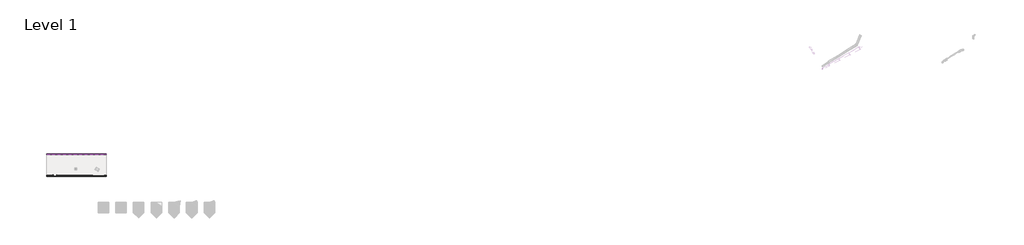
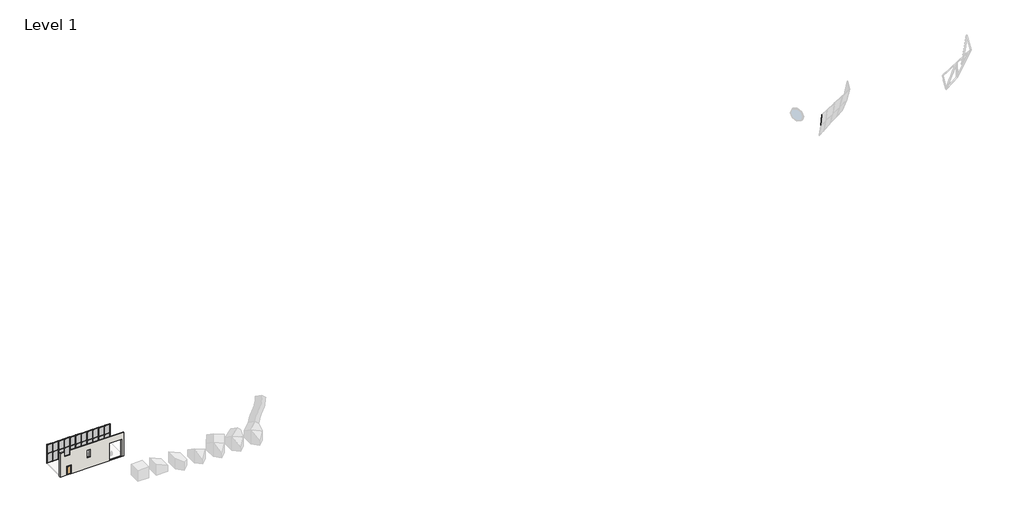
# One storey, part 1 of 4: 58 members, 22 plates, 1 door, 1 wall.
"""IFC4 building model written with IfcOpenShell, lengths in millimetres."""

from ifc_helpers import new_model, si_unit, origin, place, context, project, spatial, faceted_brep, transform, mapped, element, save
from components import m_single_glass_1_0915_x_2134mm_64ff6fe7, member_5800cf57, member_f0fea5a5, member_ee409385, member_fe566af5, member_bf97bf69, member_b8f444c1, member_f2369058, member_ab42116b, member_cc4f8265, system_panel_glazed_40b67b39, system_panel_glazed_5121d44b, system_panel_glazed_05e1786f, system_panel_glazed_7433b743

model = new_model("IFC4")

# Units and contexts
model_context = context("Model", 3, world=origin())
ifc_project = project(units=[si_unit("LENGTHUNIT", "METRE", prefix="MILLI")], contexts=[model_context])

# Site, building, storey
site = spatial("IfcSite", under=ifc_project)
building = spatial("IfcBuilding", under=site)
storey = spatial("IfcBuildingStorey", under=building, Name="Level 1", Elevation=0.0)

# Door
placement = place(None, origin())
m_single_glass_1_0915_x_2134mm_shape = m_single_glass_1_0915_x_2134mm_64ff6fe7(model_context)
element("IfcDoor", 1, ObjectType="M_Single-Glass 1 : 0915 x 2134mm", at=placement, inside=storey, context=model_context, shape_type="MappedRepresentation", body=[
    mapped(m_single_glass_1_0915_x_2134mm_shape, transform((-26242.6239276, -12846.8966791, 0.0), x_axis=(-1.0, 0.0, 0.0), y_axis=(0.0, -1.0, 0.0), z_axis=(0.0, 0.0, 1.0))),
])

# Members
member_shape = member_5800cf57(model_context)
element("IfcMember", 2, ObjectType="Circular Mullion : 2.5\" Circular", at=placement, inside=storey, context=model_context, shape_type="MappedRepresentation", body=[
    mapped(member_shape, transform((172184.898253, 14654.1915225, 5942.2259725), x_axis=(-0.8757290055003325, -0.4793902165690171, -0.057303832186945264), y_axis=(0.4828029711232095, -0.8695388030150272, -0.10394018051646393), z_axis=(0.0, -0.11868989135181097, 0.9929313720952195))),
])
member_2_shape = member_f0fea5a5(model_context)
element("IfcMember", 3, ObjectType="Rectangular Mullion : 2.5\" x 5\" rectangular", at=placement, inside=storey, context=model_context, shape_type="MappedRepresentation", body=[
    mapped(member_2_shape, transform((-14391.0330185, -7246.8966791, 100.0), x_axis=(-1.0, 0.0, 0.0), y_axis=(0.0, 1.0, 0.0), z_axis=(0.0, 0.0, -1.0))),
])
element("IfcMember", 4, ObjectType="Rectangular Mullion : 2.5\" x 5\" rectangular", at=placement, inside=storey, context=model_context, shape_type="MappedRepresentation", body=[
    mapped(member_2_shape, transform((-15781.9421094, -7246.8966791, 100.0), x_axis=(-1.0, 0.0, 0.0), y_axis=(0.0, 1.0, 0.0), z_axis=(0.0, 0.0, -1.0))),
])
element("IfcMember", 5, ObjectType="Rectangular Mullion : 2.5\" x 5\" rectangular", at=placement, inside=storey, context=model_context, shape_type="MappedRepresentation", body=[
    mapped(member_2_shape, transform((-17172.8512003, -7246.8966791, 100.0), x_axis=(-1.0, 0.0, 0.0), y_axis=(0.0, 1.0, 0.0), z_axis=(0.0, 0.0, -1.0))),
])
element("IfcMember", 6, ObjectType="Rectangular Mullion : 2.5\" x 5\" rectangular", at=placement, inside=storey, context=model_context, shape_type="MappedRepresentation", body=[
    mapped(member_2_shape, transform((-18563.7602912, -7246.8966791, 100.0), x_axis=(-1.0, 0.0, 0.0), y_axis=(0.0, 1.0, 0.0), z_axis=(0.0, 0.0, -1.0))),
])
element("IfcMember", 7, ObjectType="Rectangular Mullion : 2.5\" x 5\" rectangular", at=placement, inside=storey, context=model_context, shape_type="MappedRepresentation", body=[
    mapped(member_2_shape, transform((-19954.6693822, -7246.8966791, 100.0), x_axis=(-1.0, 0.0, 0.0), y_axis=(0.0, 1.0, 0.0), z_axis=(0.0, 0.0, -1.0))),
])
element("IfcMember", 8, ObjectType="Rectangular Mullion : 2.5\" x 5\" rectangular", at=placement, inside=storey, context=model_context, shape_type="MappedRepresentation", body=[
    mapped(member_2_shape, transform((-21345.5784731, -7246.8966791, 100.0), x_axis=(-1.0, 0.0, 0.0), y_axis=(0.0, 1.0, 0.0), z_axis=(0.0, 0.0, -1.0))),
])
element("IfcMember", 9, ObjectType="Rectangular Mullion : 2.5\" x 5\" rectangular", at=placement, inside=storey, context=model_context, shape_type="MappedRepresentation", body=[
    mapped(member_2_shape, transform((-22736.487564, -7246.8966791, 100.0), x_axis=(-1.0, 0.0, 0.0), y_axis=(0.0, 1.0, 0.0), z_axis=(0.0, 0.0, -1.0))),
])
element("IfcMember", 10, ObjectType="Rectangular Mullion : 2.5\" x 5\" rectangular", at=placement, inside=storey, context=model_context, shape_type="MappedRepresentation", body=[
    mapped(member_2_shape, transform((-24127.3966549, -7246.8966791, 100.0), x_axis=(-1.0, 0.0, 0.0), y_axis=(0.0, 1.0, 0.0), z_axis=(0.0, 0.0, -1.0))),
])
element("IfcMember", 11, ObjectType="Rectangular Mullion : 2.5\" x 5\" rectangular", at=placement, inside=storey, context=model_context, shape_type="MappedRepresentation", body=[
    mapped(member_2_shape, transform((-25518.3057458, -7246.8966791, 100.0), x_axis=(-1.0, 0.0, 0.0), y_axis=(0.0, 1.0, 0.0), z_axis=(0.0, 0.0, -1.0))),
])
element("IfcMember", 12, ObjectType="Rectangular Mullion : 2.5\" x 5\" rectangular", at=placement, inside=storey, context=model_context, shape_type="MappedRepresentation", body=[
    mapped(member_2_shape, transform((-26909.2148367, -7246.8966791, 100.0), x_axis=(-1.0, 0.0, 0.0), y_axis=(0.0, 1.0, 0.0), z_axis=(0.0, 0.0, -1.0))),
])
member_3_shape = member_ee409385(model_context)
element("IfcMember", 13, ObjectType="Rectangular Mullion : 2.5\" x 5\" rectangular", at=placement, inside=storey, context=model_context, shape_type="MappedRepresentation", body=[
    mapped(member_3_shape, transform((-28300.1239276, -7246.8966791, 100.0), x_axis=(-1.0, 0.0, 0.0), y_axis=(0.0, 1.0, 0.0), z_axis=(0.0, 0.0, -1.0))),
])
element("IfcMember", 14, ObjectType="Rectangular Mullion : 2.5\" x 5\" rectangular", at=placement, inside=storey, context=model_context, shape_type="MappedRepresentation", body=[
    mapped(member_3_shape, transform((-13000.1239276, -7246.8966791, 2538.4), x_axis=(1.0, 0.0, 0.0), y_axis=(0.0, 1.0, 0.0), z_axis=(0.0, 0.0, 1.0))),
])
member_4_shape = member_fe566af5(model_context)
element("IfcMember", 15, ObjectType="Rectangular Mullion : 2.5\" x 5\" rectangular", at=placement, inside=storey, context=model_context, shape_type="MappedRepresentation", body=[
    mapped(member_4_shape, transform((-13063.6239276, -7246.8966791, 100.0), x_axis=(0.0, 0.0, -1.0), y_axis=(0.0, 1.0, 0.0), z_axis=(1.0, 0.0, 0.0))),
])
element("IfcMember", 16, ObjectType="Rectangular Mullion : 2.5\" x 5\" rectangular", at=placement, inside=storey, context=model_context, shape_type="MappedRepresentation", body=[
    mapped(member_4_shape, transform((-26940.9648367, -7246.8966791, 100.0), x_axis=(0.0, 0.0, -1.0), y_axis=(0.0, 1.0, 0.0), z_axis=(1.0, 0.0, 0.0))),
])
member_5_shape = member_bf97bf69(model_context)
element("IfcMember", 17, ObjectType="Rectangular Mullion : 2.5\" x 5\" rectangular", at=placement, inside=storey, context=model_context, shape_type="MappedRepresentation", body=[
    mapped(member_5_shape, transform((-14422.7830185, -7246.8966791, 100.0), x_axis=(0.0, 0.0, -1.0), y_axis=(0.0, 1.0, 0.0), z_axis=(1.0, 0.0, 0.0))),
])
element("IfcMember", 18, ObjectType="Rectangular Mullion : 2.5\" x 5\" rectangular", at=placement, inside=storey, context=model_context, shape_type="MappedRepresentation", body=[
    mapped(member_5_shape, transform((-15813.6921094, -7246.8966791, 100.0), x_axis=(0.0, 0.0, -1.0), y_axis=(0.0, 1.0, 0.0), z_axis=(1.0, 0.0, 0.0))),
])
element("IfcMember", 19, ObjectType="Rectangular Mullion : 2.5\" x 5\" rectangular", at=placement, inside=storey, context=model_context, shape_type="MappedRepresentation", body=[
    mapped(member_5_shape, transform((-17204.6012003, -7246.8966791, 100.0), x_axis=(0.0, 0.0, -1.0), y_axis=(0.0, 1.0, 0.0), z_axis=(1.0, 0.0, 0.0))),
])
element("IfcMember", 20, ObjectType="Rectangular Mullion : 2.5\" x 5\" rectangular", at=placement, inside=storey, context=model_context, shape_type="MappedRepresentation", body=[
    mapped(member_5_shape, transform((-18595.5102912, -7246.8966791, 100.0), x_axis=(0.0, 0.0, -1.0), y_axis=(0.0, 1.0, 0.0), z_axis=(1.0, 0.0, 0.0))),
])
element("IfcMember", 21, ObjectType="Rectangular Mullion : 2.5\" x 5\" rectangular", at=placement, inside=storey, context=model_context, shape_type="MappedRepresentation", body=[
    mapped(member_5_shape, transform((-19986.4193822, -7246.8966791, 100.0), x_axis=(0.0, 0.0, -1.0), y_axis=(0.0, 1.0, 0.0), z_axis=(1.0, 0.0, 0.0))),
])
element("IfcMember", 22, ObjectType="Rectangular Mullion : 2.5\" x 5\" rectangular", at=placement, inside=storey, context=model_context, shape_type="MappedRepresentation", body=[
    mapped(member_5_shape, transform((-21377.3284731, -7246.8966791, 100.0), x_axis=(0.0, 0.0, -1.0), y_axis=(0.0, 1.0, 0.0), z_axis=(1.0, 0.0, 0.0))),
])
element("IfcMember", 23, ObjectType="Rectangular Mullion : 2.5\" x 5\" rectangular", at=placement, inside=storey, context=model_context, shape_type="MappedRepresentation", body=[
    mapped(member_5_shape, transform((-22768.237564, -7246.8966791, 100.0), x_axis=(0.0, 0.0, -1.0), y_axis=(0.0, 1.0, 0.0), z_axis=(1.0, 0.0, 0.0))),
])
element("IfcMember", 24, ObjectType="Rectangular Mullion : 2.5\" x 5\" rectangular", at=placement, inside=storey, context=model_context, shape_type="MappedRepresentation", body=[
    mapped(member_5_shape, transform((-24159.1466549, -7246.8966791, 100.0), x_axis=(0.0, 0.0, -1.0), y_axis=(0.0, 1.0, 0.0), z_axis=(1.0, 0.0, 0.0))),
])
element("IfcMember", 25, ObjectType="Rectangular Mullion : 2.5\" x 5\" rectangular", at=placement, inside=storey, context=model_context, shape_type="MappedRepresentation", body=[
    mapped(member_5_shape, transform((-25550.0557458, -7246.8966791, 100.0), x_axis=(0.0, 0.0, -1.0), y_axis=(0.0, 1.0, 0.0), z_axis=(1.0, 0.0, 0.0))),
])
member_6_shape = member_b8f444c1(model_context)
element("IfcMember", 26, ObjectType="Rectangular Mullion : 2.5\" x 5\" rectangular", at=placement, inside=storey, context=model_context, shape_type="MappedRepresentation", body=[
    mapped(member_6_shape, transform((-14359.2830185, -7246.8966791, 2538.4), x_axis=(0.0, 0.0, 1.0), y_axis=(0.0, 1.0, 0.0), z_axis=(-1.0, 0.0, 0.0))),
])
element("IfcMember", 27, ObjectType="Rectangular Mullion : 2.5\" x 5\" rectangular", at=placement, inside=storey, context=model_context, shape_type="MappedRepresentation", body=[
    mapped(member_6_shape, transform((-28236.6239276, -7246.8966791, 2538.4), x_axis=(0.0, 0.0, 1.0), y_axis=(0.0, 1.0, 0.0), z_axis=(-1.0, 0.0, 0.0))),
])
member_7_shape = member_f2369058(model_context)
element("IfcMember", 28, ObjectType="Rectangular Mullion : 2.5\" x 5\" rectangular", at=placement, inside=storey, context=model_context, shape_type="MappedRepresentation", body=[
    mapped(member_7_shape, transform((-15750.1921094, -7246.8966791, 2538.4), x_axis=(0.0, 0.0, 1.0), y_axis=(0.0, 1.0, 0.0), z_axis=(-1.0, 0.0, 0.0))),
])
element("IfcMember", 29, ObjectType="Rectangular Mullion : 2.5\" x 5\" rectangular", at=placement, inside=storey, context=model_context, shape_type="MappedRepresentation", body=[
    mapped(member_7_shape, transform((-17141.1012003, -7246.8966791, 2538.4), x_axis=(0.0, 0.0, 1.0), y_axis=(0.0, 1.0, 0.0), z_axis=(-1.0, 0.0, 0.0))),
])
element("IfcMember", 30, ObjectType="Rectangular Mullion : 2.5\" x 5\" rectangular", at=placement, inside=storey, context=model_context, shape_type="MappedRepresentation", body=[
    mapped(member_7_shape, transform((-18532.0102912, -7246.8966791, 2538.4), x_axis=(0.0, 0.0, 1.0), y_axis=(0.0, 1.0, 0.0), z_axis=(-1.0, 0.0, 0.0))),
])
element("IfcMember", 31, ObjectType="Rectangular Mullion : 2.5\" x 5\" rectangular", at=placement, inside=storey, context=model_context, shape_type="MappedRepresentation", body=[
    mapped(member_7_shape, transform((-19922.9193822, -7246.8966791, 2538.4), x_axis=(0.0, 0.0, 1.0), y_axis=(0.0, 1.0, 0.0), z_axis=(-1.0, 0.0, 0.0))),
])
element("IfcMember", 32, ObjectType="Rectangular Mullion : 2.5\" x 5\" rectangular", at=placement, inside=storey, context=model_context, shape_type="MappedRepresentation", body=[
    mapped(member_7_shape, transform((-21313.8284731, -7246.8966791, 2538.4), x_axis=(0.0, 0.0, 1.0), y_axis=(0.0, 1.0, 0.0), z_axis=(-1.0, 0.0, 0.0))),
])
element("IfcMember", 33, ObjectType="Rectangular Mullion : 2.5\" x 5\" rectangular", at=placement, inside=storey, context=model_context, shape_type="MappedRepresentation", body=[
    mapped(member_7_shape, transform((-22704.737564, -7246.8966791, 2538.4), x_axis=(0.0, 0.0, 1.0), y_axis=(0.0, 1.0, 0.0), z_axis=(-1.0, 0.0, 0.0))),
])
element("IfcMember", 34, ObjectType="Rectangular Mullion : 2.5\" x 5\" rectangular", at=placement, inside=storey, context=model_context, shape_type="MappedRepresentation", body=[
    mapped(member_7_shape, transform((-24095.6466549, -7246.8966791, 2538.4), x_axis=(0.0, 0.0, 1.0), y_axis=(0.0, 1.0, 0.0), z_axis=(-1.0, 0.0, 0.0))),
])
element("IfcMember", 35, ObjectType="Rectangular Mullion : 2.5\" x 5\" rectangular", at=placement, inside=storey, context=model_context, shape_type="MappedRepresentation", body=[
    mapped(member_7_shape, transform((-25486.5557458, -7246.8966791, 2538.4), x_axis=(0.0, 0.0, 1.0), y_axis=(0.0, 1.0, 0.0), z_axis=(-1.0, 0.0, 0.0))),
])
element("IfcMember", 36, ObjectType="Rectangular Mullion : 2.5\" x 5\" rectangular", at=placement, inside=storey, context=model_context, shape_type="MappedRepresentation", body=[
    mapped(member_7_shape, transform((-26877.4648367, -7246.8966791, 2538.4), x_axis=(0.0, 0.0, 1.0), y_axis=(0.0, 1.0, 0.0), z_axis=(-1.0, 0.0, 0.0))),
])
member_8_shape = member_ab42116b(model_context)
element("IfcMember", 37, ObjectType="Rectangular Mullion : 2.5\" x 5\" rectangular", at=placement, inside=storey, context=model_context, shape_type="MappedRepresentation", body=[
    mapped(member_8_shape, transform((-14391.0330185, -7246.8966791, 2538.4), x_axis=(-1.0, 0.0, 0.0), y_axis=(0.0, 1.0, 0.0), z_axis=(0.0, 0.0, -1.0))),
])
element("IfcMember", 38, ObjectType="Rectangular Mullion : 2.5\" x 5\" rectangular", at=placement, inside=storey, context=model_context, shape_type="MappedRepresentation", body=[
    mapped(member_8_shape, transform((-15781.9421094, -7246.8966791, 2538.4), x_axis=(-1.0, 0.0, 0.0), y_axis=(0.0, 1.0, 0.0), z_axis=(0.0, 0.0, -1.0))),
])
element("IfcMember", 39, ObjectType="Rectangular Mullion : 2.5\" x 5\" rectangular", at=placement, inside=storey, context=model_context, shape_type="MappedRepresentation", body=[
    mapped(member_8_shape, transform((-17172.8512003, -7246.8966791, 2538.4), x_axis=(-1.0, 0.0, 0.0), y_axis=(0.0, 1.0, 0.0), z_axis=(0.0, 0.0, -1.0))),
])
element("IfcMember", 40, ObjectType="Rectangular Mullion : 2.5\" x 5\" rectangular", at=placement, inside=storey, context=model_context, shape_type="MappedRepresentation", body=[
    mapped(member_8_shape, transform((-18563.7602912, -7246.8966791, 2538.4), x_axis=(-1.0, 0.0, 0.0), y_axis=(0.0, 1.0, 0.0), z_axis=(0.0, 0.0, -1.0))),
])
element("IfcMember", 41, ObjectType="Rectangular Mullion : 2.5\" x 5\" rectangular", at=placement, inside=storey, context=model_context, shape_type="MappedRepresentation", body=[
    mapped(member_8_shape, transform((-19954.6693822, -7246.8966791, 2538.4), x_axis=(-1.0, 0.0, 0.0), y_axis=(0.0, 1.0, 0.0), z_axis=(0.0, 0.0, -1.0))),
])
element("IfcMember", 42, ObjectType="Rectangular Mullion : 2.5\" x 5\" rectangular", at=placement, inside=storey, context=model_context, shape_type="MappedRepresentation", body=[
    mapped(member_8_shape, transform((-21345.5784731, -7246.8966791, 2538.4), x_axis=(-1.0, 0.0, 0.0), y_axis=(0.0, 1.0, 0.0), z_axis=(0.0, 0.0, -1.0))),
])
element("IfcMember", 43, ObjectType="Rectangular Mullion : 2.5\" x 5\" rectangular", at=placement, inside=storey, context=model_context, shape_type="MappedRepresentation", body=[
    mapped(member_8_shape, transform((-22736.487564, -7246.8966791, 2538.4), x_axis=(-1.0, 0.0, 0.0), y_axis=(0.0, 1.0, 0.0), z_axis=(0.0, 0.0, -1.0))),
])
element("IfcMember", 44, ObjectType="Rectangular Mullion : 2.5\" x 5\" rectangular", at=placement, inside=storey, context=model_context, shape_type="MappedRepresentation", body=[
    mapped(member_8_shape, transform((-24127.3966549, -7246.8966791, 2538.4), x_axis=(-1.0, 0.0, 0.0), y_axis=(0.0, 1.0, 0.0), z_axis=(0.0, 0.0, -1.0))),
])
element("IfcMember", 45, ObjectType="Rectangular Mullion : 2.5\" x 5\" rectangular", at=placement, inside=storey, context=model_context, shape_type="MappedRepresentation", body=[
    mapped(member_8_shape, transform((-25518.3057458, -7246.8966791, 2538.4), x_axis=(-1.0, 0.0, 0.0), y_axis=(0.0, 1.0, 0.0), z_axis=(0.0, 0.0, -1.0))),
])
element("IfcMember", 46, ObjectType="Rectangular Mullion : 2.5\" x 5\" rectangular", at=placement, inside=storey, context=model_context, shape_type="MappedRepresentation", body=[
    mapped(member_8_shape, transform((-26909.2148367, -7246.8966791, 2538.4), x_axis=(-1.0, 0.0, 0.0), y_axis=(0.0, 1.0, 0.0), z_axis=(0.0, 0.0, -1.0))),
])
element("IfcMember", 47, ObjectType="Rectangular Mullion : 2.5\" x 5\" rectangular", at=placement, inside=storey, context=model_context, shape_type="MappedRepresentation", body=[
    mapped(member_4_shape, transform((-28236.6239276, -7246.8966791, 4800.0), x_axis=(0.0, 0.0, 1.0), y_axis=(0.0, 1.0, 0.0), z_axis=(-1.0, 0.0, 0.0))),
])
element("IfcMember", 48, ObjectType="Rectangular Mullion : 2.5\" x 5\" rectangular", at=placement, inside=storey, context=model_context, shape_type="MappedRepresentation", body=[
    mapped(member_4_shape, transform((-14359.2830185, -7246.8966791, 4800.0), x_axis=(0.0, 0.0, 1.0), y_axis=(0.0, 1.0, 0.0), z_axis=(-1.0, 0.0, 0.0))),
])
element("IfcMember", 49, ObjectType="Rectangular Mullion : 2.5\" x 5\" rectangular", at=placement, inside=storey, context=model_context, shape_type="MappedRepresentation", body=[
    mapped(member_5_shape, transform((-15750.1921094, -7246.8966791, 4800.0), x_axis=(0.0, 0.0, 1.0), y_axis=(0.0, 1.0, 0.0), z_axis=(-1.0, 0.0, 0.0))),
])
element("IfcMember", 50, ObjectType="Rectangular Mullion : 2.5\" x 5\" rectangular", at=placement, inside=storey, context=model_context, shape_type="MappedRepresentation", body=[
    mapped(member_5_shape, transform((-17141.1012003, -7246.8966791, 4800.0), x_axis=(0.0, 0.0, 1.0), y_axis=(0.0, 1.0, 0.0), z_axis=(-1.0, 0.0, 0.0))),
])
element("IfcMember", 51, ObjectType="Rectangular Mullion : 2.5\" x 5\" rectangular", at=placement, inside=storey, context=model_context, shape_type="MappedRepresentation", body=[
    mapped(member_5_shape, transform((-18532.0102912, -7246.8966791, 4800.0), x_axis=(0.0, 0.0, 1.0), y_axis=(0.0, 1.0, 0.0), z_axis=(-1.0, 0.0, 0.0))),
])
element("IfcMember", 52, ObjectType="Rectangular Mullion : 2.5\" x 5\" rectangular", at=placement, inside=storey, context=model_context, shape_type="MappedRepresentation", body=[
    mapped(member_5_shape, transform((-19922.9193822, -7246.8966791, 4800.0), x_axis=(0.0, 0.0, 1.0), y_axis=(0.0, 1.0, 0.0), z_axis=(-1.0, 0.0, 0.0))),
])
element("IfcMember", 53, ObjectType="Rectangular Mullion : 2.5\" x 5\" rectangular", at=placement, inside=storey, context=model_context, shape_type="MappedRepresentation", body=[
    mapped(member_5_shape, transform((-21313.8284731, -7246.8966791, 4800.0), x_axis=(0.0, 0.0, 1.0), y_axis=(0.0, 1.0, 0.0), z_axis=(-1.0, 0.0, 0.0))),
])
element("IfcMember", 54, ObjectType="Rectangular Mullion : 2.5\" x 5\" rectangular", at=placement, inside=storey, context=model_context, shape_type="MappedRepresentation", body=[
    mapped(member_5_shape, transform((-22704.737564, -7246.8966791, 4800.0), x_axis=(0.0, 0.0, 1.0), y_axis=(0.0, 1.0, 0.0), z_axis=(-1.0, 0.0, 0.0))),
])
element("IfcMember", 55, ObjectType="Rectangular Mullion : 2.5\" x 5\" rectangular", at=placement, inside=storey, context=model_context, shape_type="MappedRepresentation", body=[
    mapped(member_5_shape, transform((-24095.6466549, -7246.8966791, 4800.0), x_axis=(0.0, 0.0, 1.0), y_axis=(0.0, 1.0, 0.0), z_axis=(-1.0, 0.0, 0.0))),
])
element("IfcMember", 56, ObjectType="Rectangular Mullion : 2.5\" x 5\" rectangular", at=placement, inside=storey, context=model_context, shape_type="MappedRepresentation", body=[
    mapped(member_5_shape, transform((-25486.5557458, -7246.8966791, 4800.0), x_axis=(0.0, 0.0, 1.0), y_axis=(0.0, 1.0, 0.0), z_axis=(-1.0, 0.0, 0.0))),
])
element("IfcMember", 57, ObjectType="Rectangular Mullion : 2.5\" x 5\" rectangular", at=placement, inside=storey, context=model_context, shape_type="MappedRepresentation", body=[
    mapped(member_5_shape, transform((-26877.4648367, -7246.8966791, 4800.0), x_axis=(0.0, 0.0, 1.0), y_axis=(0.0, 1.0, 0.0), z_axis=(-1.0, 0.0, 0.0))),
])
member_9_shape = member_cc4f8265(model_context)
element("IfcMember", 58, ObjectType="Rectangular Mullion : 2.5\" x 5\" rectangular", at=placement, inside=storey, context=model_context, shape_type="MappedRepresentation", body=[
    mapped(member_9_shape, transform((-28300.1239276, -7246.8966791, 2538.4), x_axis=(-1.0, 0.0, 0.0), y_axis=(0.0, 1.0, 0.0), z_axis=(0.0, 0.0, -1.0))),
])
element("IfcMember", 59, ObjectType="Rectangular Mullion : 2.5\" x 5\" rectangular", at=placement, inside=storey, context=model_context, shape_type="MappedRepresentation", body=[
    mapped(member_9_shape, transform((-13000.1239276, -7246.8966791, 4800.0), x_axis=(1.0, 0.0, 0.0), y_axis=(0.0, 1.0, 0.0), z_axis=(0.0, 0.0, 1.0))),
])

# Plates
system_panel_glazed_shape = system_panel_glazed_40b67b39(model_context)
element("IfcPlate", 60, ObjectType="System Panel : Glazed", at=placement, inside=storey, context=model_context, shape_type="MappedRepresentation", body=[
    mapped(system_panel_glazed_shape, transform((-13711.4534731, -7246.8966791, 163.5), x_axis=(-1.0, 0.0, 0.0), y_axis=(0.0, -1.0, 0.0), z_axis=(0.0, 0.0, 1.0))),
])
element("IfcPlate", 61, ObjectType="System Panel : Glazed", at=placement, inside=storey, context=model_context, shape_type="MappedRepresentation", body=[
    mapped(system_panel_glazed_shape, transform((-27588.7943822, -7246.8966791, 163.5), x_axis=(-1.0, 0.0, 0.0), y_axis=(0.0, -1.0, 0.0), z_axis=(0.0, 0.0, 1.0))),
])
system_panel_glazed_2_shape = system_panel_glazed_5121d44b(model_context)
element("IfcPlate", 62, ObjectType="System Panel : Glazed", at=placement, inside=storey, context=model_context, shape_type="MappedRepresentation", body=[
    mapped(system_panel_glazed_2_shape, transform((-15086.487564, -7246.8966791, 163.5), x_axis=(-1.0, 0.0, 0.0), y_axis=(0.0, -1.0, 0.0), z_axis=(0.0, 0.0, 1.0))),
])
element("IfcPlate", 63, ObjectType="System Panel : Glazed", at=placement, inside=storey, context=model_context, shape_type="MappedRepresentation", body=[
    mapped(system_panel_glazed_2_shape, transform((-16477.3966549, -7246.8966791, 163.5), x_axis=(-1.0, 0.0, 0.0), y_axis=(0.0, -1.0, 0.0), z_axis=(0.0, 0.0, 1.0))),
])
element("IfcPlate", 64, ObjectType="System Panel : Glazed", at=placement, inside=storey, context=model_context, shape_type="MappedRepresentation", body=[
    mapped(system_panel_glazed_2_shape, transform((-17868.3057458, -7246.8966791, 163.5), x_axis=(-1.0, 0.0, 0.0), y_axis=(0.0, -1.0, 0.0), z_axis=(0.0, 0.0, 1.0))),
])
element("IfcPlate", 65, ObjectType="System Panel : Glazed", at=placement, inside=storey, context=model_context, shape_type="MappedRepresentation", body=[
    mapped(system_panel_glazed_2_shape, transform((-19259.2148367, -7246.8966791, 163.5), x_axis=(-1.0, 0.0, 0.0), y_axis=(0.0, -1.0, 0.0), z_axis=(0.0, 0.0, 1.0))),
])
element("IfcPlate", 66, ObjectType="System Panel : Glazed", at=placement, inside=storey, context=model_context, shape_type="MappedRepresentation", body=[
    mapped(system_panel_glazed_2_shape, transform((-20650.1239276, -7246.8966791, 163.5), x_axis=(-1.0, 0.0, 0.0), y_axis=(0.0, -1.0, 0.0), z_axis=(0.0, 0.0, 1.0))),
])
element("IfcPlate", 67, ObjectType="System Panel : Glazed", at=placement, inside=storey, context=model_context, shape_type="MappedRepresentation", body=[
    mapped(system_panel_glazed_2_shape, transform((-22041.0330185, -7246.8966791, 163.5), x_axis=(-1.0, 0.0, 0.0), y_axis=(0.0, -1.0, 0.0), z_axis=(0.0, 0.0, 1.0))),
])
element("IfcPlate", 68, ObjectType="System Panel : Glazed", at=placement, inside=storey, context=model_context, shape_type="MappedRepresentation", body=[
    mapped(system_panel_glazed_2_shape, transform((-23431.9421094, -7246.8966791, 163.5), x_axis=(-1.0, 0.0, 0.0), y_axis=(0.0, -1.0, 0.0), z_axis=(0.0, 0.0, 1.0))),
])
element("IfcPlate", 69, ObjectType="System Panel : Glazed", at=placement, inside=storey, context=model_context, shape_type="MappedRepresentation", body=[
    mapped(system_panel_glazed_2_shape, transform((-24822.8512003, -7246.8966791, 163.5), x_axis=(-1.0, 0.0, 0.0), y_axis=(0.0, -1.0, 0.0), z_axis=(0.0, 0.0, 1.0))),
])
element("IfcPlate", 70, ObjectType="System Panel : Glazed", at=placement, inside=storey, context=model_context, shape_type="MappedRepresentation", body=[
    mapped(system_panel_glazed_2_shape, transform((-26213.7602912, -7246.8966791, 163.5), x_axis=(-1.0, 0.0, 0.0), y_axis=(0.0, -1.0, 0.0), z_axis=(0.0, 0.0, 1.0))),
])
system_panel_glazed_3_shape = system_panel_glazed_05e1786f(model_context)
element("IfcPlate", 71, ObjectType="System Panel : Glazed", at=placement, inside=storey, context=model_context, shape_type="MappedRepresentation", body=[
    mapped(system_panel_glazed_3_shape, transform((-13711.4534731, -7246.8966791, 2570.15), x_axis=(-1.0, 0.0, 0.0), y_axis=(0.0, -1.0, 0.0), z_axis=(0.0, 0.0, 1.0))),
])
element("IfcPlate", 72, ObjectType="System Panel : Glazed", at=placement, inside=storey, context=model_context, shape_type="MappedRepresentation", body=[
    mapped(system_panel_glazed_3_shape, transform((-27588.7943822, -7246.8966791, 2570.15), x_axis=(-1.0, 0.0, 0.0), y_axis=(0.0, -1.0, 0.0), z_axis=(0.0, 0.0, 1.0))),
])
system_panel_glazed_4_shape = system_panel_glazed_7433b743(model_context)
element("IfcPlate", 73, ObjectType="System Panel : Glazed", at=placement, inside=storey, context=model_context, shape_type="MappedRepresentation", body=[
    mapped(system_panel_glazed_4_shape, transform((-15086.487564, -7246.8966791, 2570.15), x_axis=(-1.0, 0.0, 0.0), y_axis=(0.0, -1.0, 0.0), z_axis=(0.0, 0.0, 1.0))),
])
element("IfcPlate", 74, ObjectType="System Panel : Glazed", at=placement, inside=storey, context=model_context, shape_type="MappedRepresentation", body=[
    mapped(system_panel_glazed_4_shape, transform((-16477.3966549, -7246.8966791, 2570.15), x_axis=(-1.0, 0.0, 0.0), y_axis=(0.0, -1.0, 0.0), z_axis=(0.0, 0.0, 1.0))),
])
element("IfcPlate", 75, ObjectType="System Panel : Glazed", at=placement, inside=storey, context=model_context, shape_type="MappedRepresentation", body=[
    mapped(system_panel_glazed_4_shape, transform((-17868.3057458, -7246.8966791, 2570.15), x_axis=(-1.0, 0.0, 0.0), y_axis=(0.0, -1.0, 0.0), z_axis=(0.0, 0.0, 1.0))),
])
element("IfcPlate", 76, ObjectType="System Panel : Glazed", at=placement, inside=storey, context=model_context, shape_type="MappedRepresentation", body=[
    mapped(system_panel_glazed_4_shape, transform((-19259.2148367, -7246.8966791, 2570.15), x_axis=(-1.0, 0.0, 0.0), y_axis=(0.0, -1.0, 0.0), z_axis=(0.0, 0.0, 1.0))),
])
element("IfcPlate", 77, ObjectType="System Panel : Glazed", at=placement, inside=storey, context=model_context, shape_type="MappedRepresentation", body=[
    mapped(system_panel_glazed_4_shape, transform((-20650.1239276, -7246.8966791, 2570.15), x_axis=(-1.0, 0.0, 0.0), y_axis=(0.0, -1.0, 0.0), z_axis=(0.0, 0.0, 1.0))),
])
element("IfcPlate", 78, ObjectType="System Panel : Glazed", at=placement, inside=storey, context=model_context, shape_type="MappedRepresentation", body=[
    mapped(system_panel_glazed_4_shape, transform((-22041.0330185, -7246.8966791, 2570.15), x_axis=(-1.0, 0.0, 0.0), y_axis=(0.0, -1.0, 0.0), z_axis=(0.0, 0.0, 1.0))),
])
element("IfcPlate", 79, ObjectType="System Panel : Glazed", at=placement, inside=storey, context=model_context, shape_type="MappedRepresentation", body=[
    mapped(system_panel_glazed_4_shape, transform((-23431.9421094, -7246.8966791, 2570.15), x_axis=(-1.0, 0.0, 0.0), y_axis=(0.0, -1.0, 0.0), z_axis=(0.0, 0.0, 1.0))),
])
element("IfcPlate", 80, ObjectType="System Panel : Glazed", at=placement, inside=storey, context=model_context, shape_type="MappedRepresentation", body=[
    mapped(system_panel_glazed_4_shape, transform((-24822.8512003, -7246.8966791, 2570.15), x_axis=(-1.0, 0.0, 0.0), y_axis=(0.0, -1.0, 0.0), z_axis=(0.0, 0.0, 1.0))),
])
element("IfcPlate", 81, ObjectType="System Panel : Glazed", at=placement, inside=storey, context=model_context, shape_type="MappedRepresentation", body=[
    mapped(system_panel_glazed_4_shape, transform((-26213.7602912, -7246.8966791, 2570.15), x_axis=(-1.0, 0.0, 0.0), y_axis=(0.0, -1.0, 0.0), z_axis=(0.0, 0.0, 1.0))),
])

# Wall
element("IfcWall", 82, ObjectType="Generic - 300mm", at=placement, inside=storey, context=model_context, shape_type="Brep", body=[
    faceted_brep([(-25918.391678, -12696.8966791, 6000.0), (-13100.1239276, -12696.8966791, 6000.0), (-12900.1239276, -12696.8966791, 6000.0), (-12900.1239276, -12696.8966791, 4800.0), (-12900.1239276, -12696.8966791, 0.0), (-25785.1239276, -12696.8966791, 0.0), (-25785.1239276, -12696.8966791, 2134.0), (-26700.1239276, -12696.8966791, 2134.0), (-26700.1239276, -12696.8966791, 0.0), (-28400.1239276, -12696.8966791, 0.0), (-28400.1239276, -12696.8966791, 4800.0), (-28400.1239276, -12696.8966791, 6000.0), (-28200.1239276, -12696.8966791, 6000.0), (-27400.1239276, -12696.8966791, 6000.0), (-27400.1239276, -12696.8966791, 4800.0), (-25918.391678, -12696.8966791, 4800.0), (-21094.1239276, -12696.8966791, 2600.0), (-21094.1239276, -12696.8966791, 4632.0), (-21856.1239276, -12696.8966791, 4632.0), (-21856.1239276, -12696.8966791, 2600.0), (-16400.1239276, -12696.8966791, 4503.09822), (-16400.1239276, -12696.8966791, 92.338716), (-13500.1239276, -12696.8966791, 92.338716), (-13500.1239276, -12696.8966791, 4503.09822), (-12900.1239276, -12996.8966791, 6000.0), (-25918.391678, -12996.8966791, 6000.0), (-25918.391678, -12996.8966791, 4800.0), (-27400.1239276, -12996.8966791, 4800.0), (-27400.1239276, -12996.8966791, 6000.0), (-28400.1239276, -12996.8966791, 6000.0), (-28400.1239276, -12996.8966791, 0.0), (-26700.1239276, -12996.8966791, 0.0), (-26700.1239276, -12996.8966791, 2134.0), (-25785.1239276, -12996.8966791, 2134.0), (-25785.1239276, -12996.8966791, 0.0), (-12900.1239276, -12996.8966791, 0.0), (-21094.1239276, -12996.8966791, 2600.0), (-21856.1239276, -12996.8966791, 2600.0), (-21856.1239276, -12996.8966791, 4632.0), (-21094.1239276, -12996.8966791, 4632.0), (-16400.1239276, -12996.8966791, 92.338716), (-16400.1239276, -12996.8966791, 4503.09822), (-13500.1239276, -12996.8966791, 4503.09822), (-13500.1239276, -12996.8966791, 92.338716)], [[[0, 1, 2, 3, 4, 5, 6, 7, 8, 9, 10, 11, 12, 13, 14, 15], [16, 17, 18, 19], [20, 21, 22, 23]], [[24, 25, 26, 27, 28, 29, 30, 31, 32, 33, 34, 35], [36, 37, 38, 39], [40, 41, 42, 43]], [[11, 10, 9, 30, 29]], [[37, 36, 16, 19]], [[38, 37, 19, 18]], [[39, 38, 18, 17]], [[36, 39, 17, 16]], [[4, 3, 2, 24, 35]], [[30, 9, 8, 31]], [[4, 35, 34, 5]], [[2, 1, 0, 25, 24]], [[15, 14, 27, 26]], [[0, 15, 26, 25]], [[13, 12, 11, 29, 28]], [[14, 13, 28, 27]], [[32, 31, 8, 7]], [[33, 32, 7, 6]], [[34, 33, 6, 5]], [[40, 21, 20, 41]], [[41, 20, 23, 42]], [[42, 23, 22, 43]], [[21, 40, 43, 22]]]),
])

save(model, "model.ifc")
